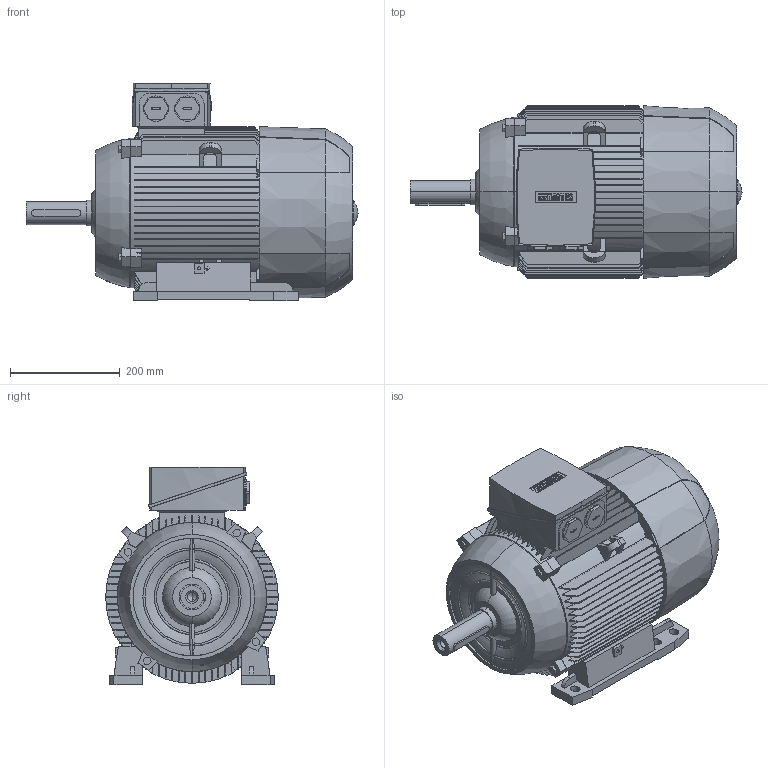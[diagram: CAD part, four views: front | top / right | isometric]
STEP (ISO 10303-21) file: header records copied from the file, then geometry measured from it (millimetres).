
FILE_DESCRIPTION(('STEP AP214'),'1');
FILE_NAME('cctmp_54AF5471-15A5-4034-9731-2D8A3588AA16_2025_01_22_07_06_01_0979..stp','2025-01-22T07:06:02',('SIEMENS A&D'),('CADClick - www.CADClick.com'),'Spatial InterOp 3D',' ','unknown authorization');
FILE_SCHEMA(('AUTOMOTIVE_DESIGN'));
Length unit declared in the file: millimetre
Products named in the file (1): 2025_01_22_07_06_01_0963
Bounding box: 604 x 314 x 396.5 mm (x, y, z)
Volume: 33033874.6 mm3; surface area: 1287414.6 mm2
Topology: 1 solids, 1 shells, 1085 faces, 3099 edges, 2052 vertices
Faces by surface type: plane 658, cylinder 257, torus 152, cone 18
Entity records: 52729 total; most frequent: CARTESIAN_POINT 16150, ORIENTED_EDGE 6190, DIRECTION 5378, EDGE_CURVE 3095, VERTEX_POINT 2052, LINE 1856, VECTOR 1856, AXIS2_PLACEMENT_3D 1761
